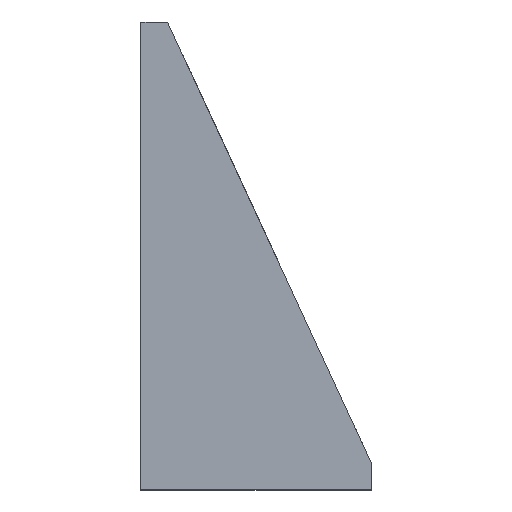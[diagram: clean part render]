
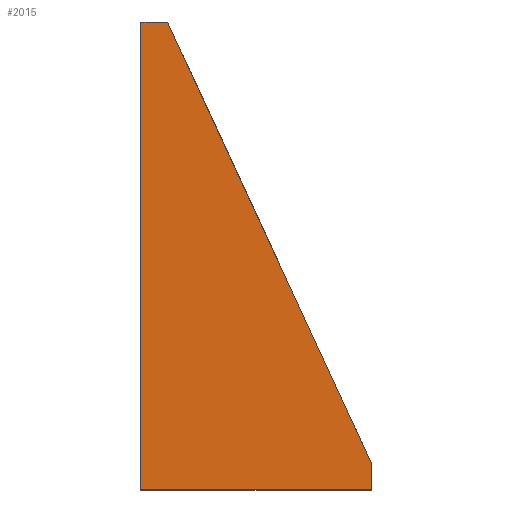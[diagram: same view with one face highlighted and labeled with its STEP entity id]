
A CAD part, top view. The second image highlights one B-rep face of the part: STEP entity #2015.
In plain terms, the highlighted planar face has unit normal (0, 0, 1).
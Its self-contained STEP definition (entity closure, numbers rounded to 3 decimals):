
#365 = CARTESIAN_POINT ( 'NONE',  ( 4., 27.122, 70. ) ) ;
#402 = CARTESIAN_POINT ( 'NONE',  ( 34.5, -38.878, 70. ) ) ;
#403 = DIRECTION ( 'NONE',  ( -0.419, 0.908, 0. ) ) ;
#404 = VECTOR ( 'NONE', #403, 1000. ) ;
#405 = CARTESIAN_POINT ( 'NONE',  ( 34.5, -38.878, 70. ) ) ;
#406 = LINE ( 'NONE', #405, #404 ) ;
#514 = CARTESIAN_POINT ( 'NONE',  ( 34.5, -42.878, 70. ) ) ;
#515 = DIRECTION ( 'NONE',  ( 0., 1., 0. ) ) ;
#516 = VECTOR ( 'NONE', #515, 1000. ) ;
#517 = CARTESIAN_POINT ( 'NONE',  ( 34.5, -13.57, 70. ) ) ;
#518 = LINE ( 'NONE', #517, #516 ) ;
#837 = DIRECTION ( 'NONE',  ( 1., 0., 0. ) ) ;
#838 = DIRECTION ( 'NONE',  ( 0., 0., 1. ) ) ;
#839 = CARTESIAN_POINT ( 'NONE',  ( 11.559, -13.57, 70. ) ) ;
#840 = AXIS2_PLACEMENT_3D ( 'NONE', #839, #838, #837 ) ;
#841 = PLANE ( 'NONE',  #840 ) ;
#842 = FACE_OUTER_BOUND ( 'NONE', #2016, .T. ) ;
#894 = VECTOR ( 'NONE', #964, 1000. ) ;
#895 = CARTESIAN_POINT ( 'NONE',  ( 0., -42.878, 70. ) ) ;
#896 = LINE ( 'NONE', #895, #894 ) ;
#897 = CARTESIAN_POINT ( 'NONE',  ( 0., 27.122, 70. ) ) ;
#898 = DIRECTION ( 'NONE',  ( 1., 0., 0. ) ) ;
#899 = VECTOR ( 'NONE', #898, 1000. ) ;
#900 = CARTESIAN_POINT ( 'NONE',  ( 0., 27.122, 70. ) ) ;
#901 = LINE ( 'NONE', #900, #899 ) ;
#959 = DIRECTION ( 'NONE',  ( -1., 0., 0. ) ) ;
#960 = VECTOR ( 'NONE', #959, 1000. ) ;
#961 = CARTESIAN_POINT ( 'NONE',  ( 34.5, -42.878, 70. ) ) ;
#962 = LINE ( 'NONE', #961, #960 ) ;
#963 = CARTESIAN_POINT ( 'NONE',  ( 0., -42.878, 70. ) ) ;
#964 = DIRECTION ( 'NONE',  ( 0., 1., 0. ) ) ;
#1716 = VERTEX_POINT ( 'NONE', #365 ) ;
#1718 = EDGE_CURVE ( 'NONE', #1719, #1716, #406, .T. ) ;
#1719 = VERTEX_POINT ( 'NONE', #402 ) ;
#1813 = EDGE_CURVE ( 'NONE', #1814, #1719, #518, .T. ) ;
#1814 = VERTEX_POINT ( 'NONE', #514 ) ;
#2015 = ADVANCED_FACE ( 'NONE', ( #842 ), #841, .T. ) ;
#2016 = EDGE_LOOP ( 'NONE', ( #2068, #2069, #2072, #2075, #2077 ) ) ;
#2068 = ORIENTED_EDGE ( 'NONE', *, *, #1718, .T. ) ;
#2069 = ORIENTED_EDGE ( 'NONE', *, *, #2070, .F. ) ;
#2070 = EDGE_CURVE ( 'NONE', #2071, #1716, #901, .T. ) ;
#2071 = VERTEX_POINT ( 'NONE', #897 ) ;
#2072 = ORIENTED_EDGE ( 'NONE', *, *, #2073, .F. ) ;
#2073 = EDGE_CURVE ( 'NONE', #2074, #2071, #896, .T. ) ;
#2074 = VERTEX_POINT ( 'NONE', #963 ) ;
#2075 = ORIENTED_EDGE ( 'NONE', *, *, #2076, .F. ) ;
#2076 = EDGE_CURVE ( 'NONE', #1814, #2074, #962, .T. ) ;
#2077 = ORIENTED_EDGE ( 'NONE', *, *, #1813, .T. ) ;
